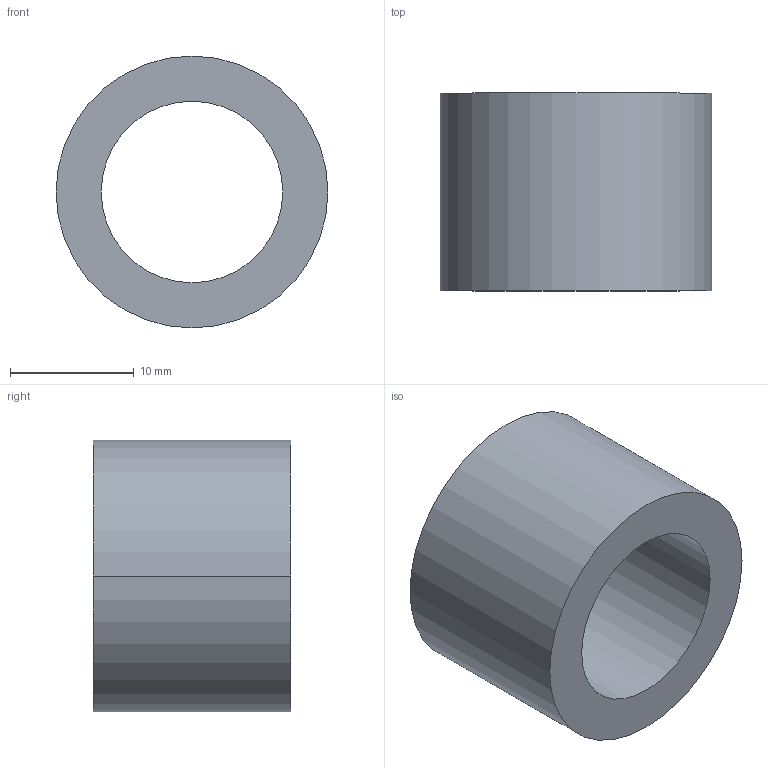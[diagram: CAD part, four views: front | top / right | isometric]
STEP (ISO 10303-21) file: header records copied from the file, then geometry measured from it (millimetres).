
FILE_DESCRIPTION (( 'STEP AP203' ), '1' );
FILE_NAME ('30800.WPP22F14.7.step', '2019-01-23T22:44:22', ( '' ), ( '' ), 'SwSTEP 2.0', 'SolidWorks 2017', '' );
FILE_SCHEMA (( 'CONFIG_CONTROL_DESIGN' ));
Length unit declared in the file: millimetre
Products named in the file (1): 30800.WPP22F14.7
Bounding box: 22 x 16 x 22 mm (x, y, z)
Volume: 3324.6 mm3; surface area: 2227.7 mm2
Topology: 1 solids, 1 shells, 8 faces, 16 edges, 10 vertices
Faces by surface type: cylinder 4, torus 2, plane 2
Entity records: 297 total; most frequent: DIRECTION 46, CARTESIAN_POINT 35, ORIENTED_EDGE 32, AXIS2_PLACEMENT_3D 21, EDGE_CURVE 16, CIRCLE 12, VERTEX_POINT 10, EDGE_LOOP 10
